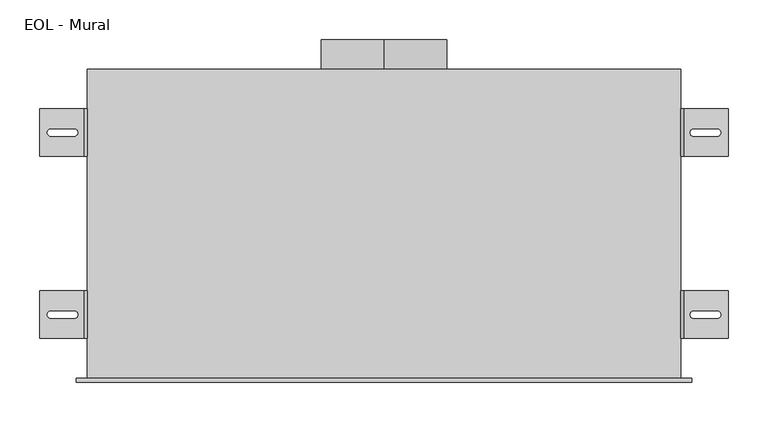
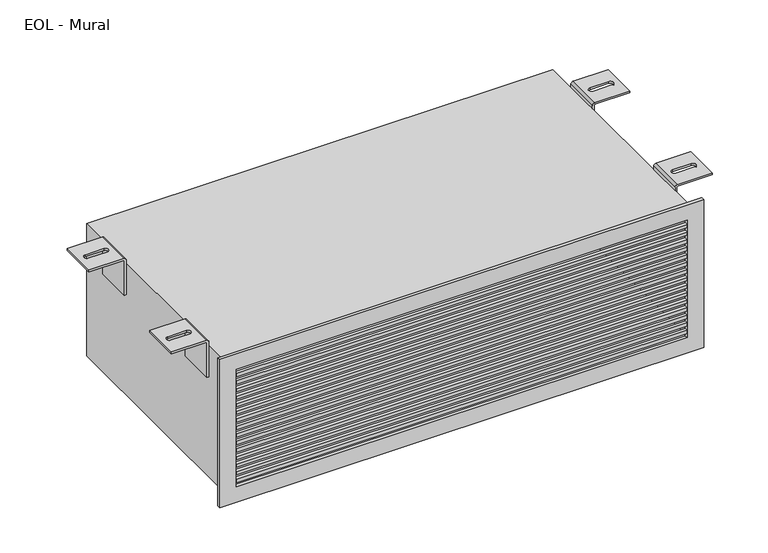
"""IFC4 building model written with IfcOpenShell, lengths in millimetres: air terminal geometry, EOL - Mural : EOL-M160-750x225-2."""

import ifcopenshell
import ifcopenshell.guid

model = None  # the IFC model being written
_history = None  # IfcOwnerHistory: only IFC2X3 demands one
_inside = {}  # id of a spatial element -> (the spatial element, [elements in it])
_under = {}  # id of a project, library or spatial element -> (it, [spatial elements below it])
_declared = {}  # id of a project -> (the project, [libraries it declares])
_typed = {}  # id of a type object -> (the type object, [elements of that type])
_made_of = {}  # id of a material, layer set ... -> (it, [elements and type objects made of it])


def new_model(schema):
    """Start an empty IFC model of exactly this schema.

    Asked for "IFC4X3", IfcOpenShell would pick the latest addendum, in which some entities
    have other attributes; the version numbers below select the first issue.
    IFC2X3 requires an IfcOwnerHistory on every rooted entity: one is made here for all.
    """
    global model, _history
    if schema == "IFC4X3":
        model = ifcopenshell.file(schema_version=(4, 3, 0, 0))
    else:
        model = ifcopenshell.file(schema=schema)
    _inside.clear()
    _under.clear()
    _declared.clear()
    _typed.clear()
    _made_of.clear()
    _history = None
    if model.schema == "IFC2X3":
        org = make("IfcOrganization", Name="unknown")
        user = make(
            "IfcPersonAndOrganization",
            ThePerson=make("IfcPerson", FamilyName="unknown"),
            TheOrganization=org,
        )
        app = make(
            "IfcApplication",
            ApplicationDeveloper=org,
            Version="unknown",
            ApplicationFullName="unknown",
            ApplicationIdentifier="unknown",
        )
        _history = make(
            "IfcOwnerHistory",
            OwningUser=user,
            OwningApplication=app,
            ChangeAction="ADDED",
            CreationDate=0,
        )
    return model


def make(cls, **values):
    """One entity of the class cls with the attributes given. An attribute that is None is left unset."""
    return model.create_entity(
        cls, **{name: value for name, value in values.items() if value is not None}
    )


def rooted(cls, **values):
    """An entity with a GlobalId (a new one), such as an element, a storey or a relation."""
    return make(cls, GlobalId=ifcopenshell.guid.new(), OwnerHistory=_history, **values)


def si_unit(unit_type, name, prefix=None):
    """IfcSIUnit, for example si_unit("LENGTHUNIT", "METRE", prefix="MILLI")."""
    return make("IfcSIUnit", UnitType=unit_type, Prefix=prefix, Name=name)


def assignment(units):
    """IfcUnitAssignment: the units of a project."""
    return None if units is None else make("IfcUnitAssignment", Units=units)


def point(xyz):
    """IfcCartesianPoint."""
    return None if xyz is None else make("IfcCartesianPoint", Coordinates=xyz)


def direction(xyz):
    """IfcDirection."""
    return None if xyz is None else make("IfcDirection", DirectionRatios=xyz)


def frame(location, z_axis=None, x_axis=None):
    """IfcAxis2Placement3D, a coordinate frame: its origin and axes. An axis left out is left unset."""
    return make(
        "IfcAxis2Placement3D",
        Location=point(location),
        Axis=direction(z_axis),
        RefDirection=direction(x_axis),
    )


def frame_2d(location, x_axis=None):
    """IfcAxis2Placement2D, a coordinate frame in the plane: its origin and x axis."""
    return make(
        "IfcAxis2Placement2D", Location=point(location), RefDirection=direction(x_axis)
    )


def origin():
    """The frame at (0, 0, 0) with its axes left unset."""
    return frame((0.0, 0.0, 0.0))


def origin_2d():
    """The frame at (0, 0) in the plane with its x axis left unset."""
    return frame_2d((0.0, 0.0))


def place(relative_to, where):
    """IfcLocalPlacement: puts the frame where relative to a parent placement (None: the world)."""
    return make(
        "IfcLocalPlacement", PlacementRelTo=relative_to, RelativePlacement=where
    )


def context(
    kind, dimensions, precision=None, world=None, true_north=None, identifier=None
):
    """IfcGeometricRepresentationContext, for example the 3D "Model" context."""
    return make(
        "IfcGeometricRepresentationContext",
        ContextIdentifier=identifier,
        ContextType=kind,
        CoordinateSpaceDimension=dimensions,
        Precision=precision,
        WorldCoordinateSystem=world,
        TrueNorth=true_north,
    )


def project(units=None, contexts=None):
    """IfcProject with its units and contexts."""
    return rooted(
        "IfcProject",
        Name="project",
        RepresentationContexts=contexts,
        UnitsInContext=assignment(units),
    )


def spatial(cls, under=None, at=None, **own):
    """A site, building, storey or space (cls), placed at a placement, below another one or the project."""
    s = rooted(cls, ObjectPlacement=at, **own)
    if under is not None:
        _under.setdefault(under.id(), (under, []))[1].append(s)
    return s


def polyline(points):
    """IfcPolyline through the points."""
    return make("IfcPolyline", Points=[point(p) for p in points])


def circle_curve(where, radius):
    """IfcCircle in the frame where."""
    return make("IfcCircle", Position=where, Radius=radius)


def ellipse_curve(where, semi_axis1, semi_axis2):
    """IfcEllipse in the frame where."""
    return make(
        "IfcEllipse", Position=where, SemiAxis1=semi_axis1, SemiAxis2=semi_axis2
    )


def trimmed(basis, trim1, trim2, sense, master):
    """IfcTrimmedCurve: the piece of a basis curve between two trims."""
    return make(
        "IfcTrimmedCurve",
        BasisCurve=basis,
        Trim1=trim1,
        Trim2=trim2,
        SenseAgreement=sense,
        MasterRepresentation=master,
    )


def segment(curve, same_sense, transition):
    """IfcCompositeCurveSegment."""
    return make(
        "IfcCompositeCurveSegment",
        Transition=transition,
        SameSense=same_sense,
        ParentCurve=curve,
    )


def composite_curve(segments, self_intersect=None):
    """IfcCompositeCurve: segments joined end to end."""
    return make("IfcCompositeCurve", Segments=segments, SelfIntersect=self_intersect)


def outline(outer, holes=None, kind="AREA"):
    """IfcArbitraryClosedProfileDef: a profile drawn as a closed curve; with holes, ...WithVoids."""
    if holes is None:
        return make("IfcArbitraryClosedProfileDef", ProfileType=kind, OuterCurve=outer)
    return make(
        "IfcArbitraryProfileDefWithVoids",
        ProfileType=kind,
        OuterCurve=outer,
        InnerCurves=holes,
    )


def extrude(swept, where, along, depth):
    """IfcExtrudedAreaSolid: the profile swept, set in the frame where, extruded along a direction by depth."""
    return make(
        "IfcExtrudedAreaSolid",
        SweptArea=swept,
        Position=where,
        ExtrudedDirection=direction(along),
        Depth=depth,
    )


def shape(context_of_items, identifier, shape_type, items):
    """IfcShapeRepresentation: the items that make up one representation, for example the "Body"."""
    return make(
        "IfcShapeRepresentation",
        ContextOfItems=context_of_items,
        RepresentationIdentifier=identifier,
        RepresentationType=shape_type,
        Items=items,
    )


def source(mapping_origin, context_of_items, identifier, shape_type, items):
    """IfcRepresentationMap: a shape defined once, which mapped items show again and again."""
    return make(
        "IfcRepresentationMap",
        MappingOrigin=mapping_origin,
        MappedRepresentation=shape(context_of_items, identifier, shape_type, items),
    )


def transform(
    local_origin,
    x_axis=None,
    y_axis=None,
    z_axis=None,
    scale=None,
    scale2=None,
    scale3=None,
    uniform=True,
):
    """IfcCartesianTransformationOperator3D, or its non-uniform kind. x_axis, y_axis, z_axis: its Axis1, 2, 3."""
    if uniform:
        return make(
            "IfcCartesianTransformationOperator3D",
            Axis1=direction(x_axis),
            Axis2=direction(y_axis),
            LocalOrigin=point(local_origin),
            Scale=scale,
            Axis3=direction(z_axis),
        )
    return make(
        "IfcCartesianTransformationOperator3DnonUniform",
        Axis1=direction(x_axis),
        Axis2=direction(y_axis),
        LocalOrigin=point(local_origin),
        Scale=scale,
        Axis3=direction(z_axis),
        Scale2=scale2,
        Scale3=scale3,
    )


def mapped(mapping_source, mapping_target):
    """IfcMappedItem: shows the shape of a source again, moved by a transform."""
    return make(
        "IfcMappedItem", MappingSource=mapping_source, MappingTarget=mapping_target
    )


def made_of(thing, what):
    """Note that an element or type object is made of a material, layer set ...; save() writes the relation."""
    if what is not None:
        _made_of.setdefault(what.id(), (what, []))[1].append(thing)
    return thing


def element(
    cls,
    number,
    at=None,
    inside=None,
    cuts=None,
    type_object=None,
    material=None,
    context=None,
    identifier="Body",
    shape_type=None,
    held_by="IfcProductDefinitionShape",
    body=None,
    shapes=None,
    **own,
):
    """One element of the class cls, such as IfcWall. Its Tag is "e" and its number.

    at: its placement. inside: the storey or other place that contains it. cuts: it is an
    opening in that element (IfcRelVoidsElement). A single representation is given by context,
    identifier, shape_type and body (its items); several are given by shapes. held_by: the class
    of the entity that holds the representations. save() writes the other relations.
    """
    e = rooted(cls, Tag="e%d" % number, ObjectPlacement=at, **own)
    if body is not None:
        shapes = [shape(context, identifier, shape_type, body)]
    if shapes is not None:
        e.Representation = make(held_by, Representations=shapes)
    if inside is not None:
        _inside.setdefault(inside.id(), (inside, []))[1].append(e)
    if cuts is not None:
        rooted(
            "IfcRelVoidsElement", RelatingBuildingElement=cuts, RelatedOpeningElement=e
        )
    if type_object is not None:
        _typed.setdefault(type_object.id(), (type_object, []))[1].append(e)
    return made_of(e, material)


def aggregate(whole, parts):
    """IfcRelAggregates: a whole, such as a stair, and the parts it consists of."""
    return rooted("IfcRelAggregates", RelatingObject=whole, RelatedObjects=parts)


def save(model, path):
    """Write the relations noted so far, then the file.

    IfcRelAggregates (storeys below a building ...), IfcRelContainedInSpatialStructure (elements
    in a storey), IfcRelDefinesByType, IfcRelAssociatesMaterial and IfcRelDeclares: one each for
    every whole, place, type object, material and project.
    """
    for whole, parts in _under.values():
        aggregate(whole, parts)
    for where, things in _inside.values():
        rooted(
            "IfcRelContainedInSpatialStructure",
            RelatedElements=things,
            RelatingStructure=where,
        )
    for kind, things in _typed.values():
        rooted("IfcRelDefinesByType", RelatedObjects=things, RelatingType=kind)
    for what, things in _made_of.values():
        rooted("IfcRelAssociatesMaterial", RelatedObjects=things, RelatingMaterial=what)
    for by, libraries in _declared.values():
        rooted("IfcRelDeclares", RelatingContext=by, RelatedDefinitions=libraries)
    model.write(path)


def plane_surface(at):
    """IfcPlane: the flat surface through the origin of the frame at, square to its z axis."""
    return make("IfcPlane", Position=at)


def cylinder_surface(at, radius):
    """IfcCylindricalSurface: all points at the distance radius from the z axis of the frame at."""
    return make("IfcCylindricalSurface", Position=at, Radius=radius)


def revolved_surface(curve, axis_point, axis_direction):
    """IfcSurfaceOfRevolution: the curve turned about the line through axis_point along axis_direction."""
    return make(
        "IfcSurfaceOfRevolution",
        SweptCurve=make("IfcArbitraryOpenProfileDef", ProfileType="CURVE", Curve=curve),
        AxisPosition=make("IfcAxis1Placement", Location=point(axis_point), Axis=direction(axis_direction)),
    )


def extruded_surface(curve, direction_of_extrusion, depth):
    """IfcSurfaceOfLinearExtrusion: the curve pushed along a direction by depth."""
    return make(
        "IfcSurfaceOfLinearExtrusion",
        SweptCurve=make("IfcArbitraryOpenProfileDef", ProfileType="CURVE", Curve=curve),
        ExtrudedDirection=direction(direction_of_extrusion),
        Depth=depth,
    )


def advanced_brep(points, edges, surfaces, faces):
    """IfcAdvancedBrep: a solid bounded by faces that lie on surfaces and meet in shared edges.

    An edge is (start, end): straight between two places in points (the first is 0);
    or (start, end, curve); or (start, end, curve, False) where it runs against its curve.
    A face is (place in surfaces, loops), or (place, loops, False) where it looks against
    its surface's normal. A loop lists edges by number (the first is 1), with a minus sign
    where the edge is run from its end to its start. The first loop is the outer one.
    """
    corners = [point(p) for p in points]
    vertices = [make("IfcVertexPoint", VertexGeometry=c) for c in corners]
    made = []
    for start, end, *more in edges:
        made.append(
            make(
                "IfcEdgeCurve",
                EdgeStart=vertices[start],
                EdgeEnd=vertices[end],
                EdgeGeometry=more[0] if more else make("IfcPolyline", Points=[corners[start], corners[end]]),
                SameSense=more[1] if len(more) > 1 else True,
            )
        )
    hull = []
    for where, loops, *sense in faces:
        bounds = []
        for j, loop in enumerate(loops):
            ring = [make("IfcOrientedEdge", EdgeElement=made[abs(k) - 1], Orientation=k > 0) for k in loop]
            bounds.append(
                make(
                    "IfcFaceOuterBound" if j == 0 else "IfcFaceBound",
                    Bound=make("IfcEdgeLoop", EdgeList=ring),
                    Orientation=True,
                )
            )
        hull.append(make("IfcAdvancedFace", Bounds=bounds, FaceSurface=surfaces[where], SameSense=sense[0] if sense else True))
    return make("IfcAdvancedBrep", Outer=make("IfcClosedShell", CfsFaces=hull))


def eol_mural_28d9379e(model_context):
    return source(origin(), model_context, "Body", "SolidModel", [
        advanced_brep(
        [(379.0013366, 110.0, 121.5), (435.0, 110.0, 121.5), (435.0, 110.0, 118.5), (379.0, 110.0, 118.5), (378.0, 110.0, 117.5), (378.0, 110.0, 58.5), (375.0, 110.0, 58.5), (375.0, 110.0, 117.4986634), (379.0013366, 50.0, 121.5), (375.0, 50.0, 117.4986634), (375.0, 50.0, 58.5), (378.0, 50.0, 58.5), (378.0, 50.0, 117.5), (379.0, 50.0, 118.5), (435.0, 50.0, 118.5), (435.0, 50.0, 121.5), (421.0287952, 75.4804328, 121.5), (391.0287952, 75.4804328, 121.5), (391.0287952, 84.4804328, 121.5), (421.0287952, 84.4804328, 121.5), (391.0287952, 75.4804328, 118.5), (421.0287952, 75.4804328, 118.5), (421.0287952, 84.4804328, 118.5), (391.0287952, 84.4804328, 118.5)],
        [
            (0, 1),
            (1, 2),
            (2, 3),
            (3, 4, circle_curve(frame((379.0, 110.0, 117.5), z_axis=(0.0, -1.0, 0.0), x_axis=(-1.0000000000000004, 0.0, 0.0)), 1.0)),
            (4, 5),
            (5, 6),
            (6, 7),
            (7, 0, circle_curve(frame((379.0013366, 110.0, 117.4986634), z_axis=(0.0, 1.0, 0.0), x_axis=(-1.0000000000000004, 0.0, 0.0)), 4.0013366)),
            (8, 9, circle_curve(frame((379.0013366, 50.0, 117.4986634), z_axis=(0.0, -1.0, 0.0), x_axis=(-1.0000000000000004, 0.0, 0.0)), 4.0013366)),
            (9, 10),
            (10, 11),
            (11, 12),
            (12, 13, circle_curve(frame((379.0, 50.0, 117.5), z_axis=(0.0, 1.0, 0.0), x_axis=(-1.0000000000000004, 0.0, 0.0)), 1.0)),
            (13, 14),
            (14, 15),
            (15, 8),
            (0, 8),
            (15, 1),
            (16, 17),
            (17, 18, circle_curve(frame((391.0287952, 79.9804328, 121.5), z_axis=(0.0, 0.0, -1.0), x_axis=(0.0, -1.0, 0.0)), 4.5)),
            (18, 19),
            (19, 16, circle_curve(frame((421.0287952, 79.9804328, 121.5), z_axis=(0.0, 0.0, -1.0), x_axis=(0.0, -1.0, 0.0)), 4.5)),
            (14, 2),
            (13, 3),
            (20, 21),
            (21, 22, ellipse_curve(frame((421.0287952, 79.9804328, 118.5), z_axis=(0.0, 0.0, 1.0), x_axis=(0.0, -1.0, 0.0)), 4.5, 4.5)),
            (22, 23),
            (23, 20, ellipse_curve(frame((391.0287952, 79.9804328, 118.5), z_axis=(0.0, 0.0, 1.0), x_axis=(0.0, -1.0, 0.0)), 4.5, 4.5)),
            (12, 4),
            (11, 5),
            (10, 6),
            (9, 7),
            (16, 21),
            (20, 17),
            (19, 22),
            (18, 23),
        ],
        [
            plane_surface(frame((435.0, 110.0, 121.5), z_axis=(0.0, 1.0, 0.0), x_axis=(1.0, 0.0, 0.0))),
            plane_surface(frame((435.0, 50.0, 121.5), z_axis=(0.0, -1.0, 0.0), x_axis=(-1.0, 0.0, 0.0))),
            plane_surface(frame((379.0013366, 110.0, 121.5), z_axis=(0.0, 0.0, 1.0), x_axis=(0.0, -1.0, 0.0))),
            plane_surface(frame((435.0, 110.0, 121.5), z_axis=(1.0, 0.0, 0.0), x_axis=(0.0, -1.0, 0.0))),
            plane_surface(frame((435.0, 110.0, 118.5), z_axis=(0.0, 0.0, -1.0), x_axis=(0.0, -1.0, 0.0))),
            revolved_surface(polyline([(378.0, 50.0, 117.5), (378.0, 110.00000000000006, 117.5)]), (379.0, 50.0, 117.5), (0.0, -1.0000000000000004, 0.0)),
            plane_surface(frame((378.0, 110.0, 117.5), z_axis=(1.0, 0.0, 0.0), x_axis=(0.0, -1.0, 0.0))),
            plane_surface(frame((378.0, 110.0, 58.5), z_axis=(0.0, 0.0, -1.0), x_axis=(0.0, -1.0, 0.0))),
            plane_surface(frame((375.0, 110.0, 58.5), z_axis=(-1.0, 0.0, 0.0), x_axis=(0.0, -1.0, 0.0))),
            cylinder_surface(frame((379.0013366, 50.0, 117.4986634), z_axis=(0.0, 1.0000000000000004, 0.0), x_axis=(-1.0000000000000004, 0.0, 0.0)), 4.0013366),
            plane_surface(frame((391.0287952, 75.4804328, 121.5), z_axis=(0.0, 1.0, 0.0), x_axis=(0.0, 0.0, -1.0))),
            extruded_surface(trimmed(ellipse_curve(frame((421.0287952, 79.9804328, 118.5), z_axis=(0.0, 0.0, 1.0), x_axis=(0.0, -1.0, 0.0)), 4.5, 4.5), [point((421.0287952, 75.4804328, 118.5))], [point((421.0287952, 84.4804328, 118.5))], True, "CARTESIAN"), (0.0, 0.0, -3.0), 3.0),
            plane_surface(frame((421.0287952, 84.4804328, 121.5), z_axis=(0.0, -1.0, 0.0), x_axis=(0.0, 0.0, -1.0))),
            extruded_surface(trimmed(ellipse_curve(frame((391.0287952, 79.9804328, 118.5), z_axis=(0.0, 0.0, 1.0), x_axis=(0.0, -1.0, 0.0)), 4.5, 4.5), [point((391.0287952, 84.4804328, 118.5))], [point((391.0287952, 75.4804328, 118.5))], True, "CARTESIAN"), (0.0, 0.0, -3.0), 3.0),
        ],
        [
            (0, [[1, 2, 3, 4, 5, 6, 7, 8]]),
            (1, [[9, 10, 11, 12, 13, 14, 15, 16]]),
            (2, [[-1, 17, -16, 18], [19, 20, 21, 22]]),
            (3, [[-2, -18, -15, 23]]),
            (4, [[-3, -23, -14, 24], [25, 26, 27, 28]]),
            (5, [[-4, -24, -13, 29]]),
            (6, [[-5, -29, -12, 30]]),
            (7, [[-6, -30, -11, 31]]),
            (8, [[-7, -31, -10, 32]]),
            (9, [[-8, -32, -9, -17]]),
            (10, [[33, -25, 34, -19]]),
            (11, [[-33, -22, 35, -26]]),
            (12, [[-35, -21, 36, -27]]),
            (13, [[-34, -28, -36, -20]]),
        ],
    ),
        advanced_brep(
        [(379.0013366, 340.0, 121.5), (435.0, 340.0, 121.5), (435.0, 340.0, 118.5), (379.0, 340.0, 118.5), (378.0, 340.0, 117.5), (378.0, 340.0, 58.5), (375.0, 340.0, 58.5), (375.0, 340.0, 117.4986634), (379.0013366, 280.0, 121.5), (375.0, 280.0, 117.4986634), (375.0, 280.0, 58.5), (378.0, 280.0, 58.5), (378.0, 280.0, 117.5), (379.0, 280.0, 118.5), (435.0, 280.0, 118.5), (435.0, 280.0, 121.5), (421.0287952, 305.4804328, 121.5), (391.0287952, 305.4804328, 121.5), (391.0287952, 314.4804328, 121.5), (421.0287952, 314.4804328, 121.5), (391.0287952, 305.4804328, 118.5), (421.0287952, 305.4804328, 118.5), (421.0287952, 314.4804328, 118.5), (391.0287952, 314.4804328, 118.5)],
        [
            (0, 1),
            (1, 2),
            (2, 3),
            (3, 4, circle_curve(frame((379.0, 340.0, 117.5), z_axis=(0.0, -1.0, 0.0), x_axis=(-1.0, 0.0, 0.0)), 1.0)),
            (4, 5),
            (5, 6),
            (6, 7),
            (7, 0, circle_curve(frame((379.0013366, 340.0, 117.4986634), z_axis=(0.0, 1.0, 0.0), x_axis=(-1.0, 0.0, 0.0)), 4.0013366)),
            (8, 9, circle_curve(frame((379.0013366, 280.0, 117.4986634), z_axis=(0.0, -1.0, 0.0), x_axis=(-1.0, 0.0, 0.0)), 4.0013366)),
            (9, 10),
            (10, 11),
            (11, 12),
            (12, 13, circle_curve(frame((379.0, 280.0, 117.5), z_axis=(0.0, 1.0, 0.0), x_axis=(-1.0, 0.0, 0.0)), 1.0)),
            (13, 14),
            (14, 15),
            (15, 8),
            (0, 8),
            (15, 1),
            (16, 17),
            (17, 18, circle_curve(frame((391.0287952, 309.9804328, 121.5), z_axis=(0.0, 0.0, -1.0), x_axis=(0.0, -1.0, 0.0)), 4.5)),
            (18, 19),
            (19, 16, circle_curve(frame((421.0287952, 309.9804328, 121.5), z_axis=(0.0, 0.0, -1.0), x_axis=(0.0, -1.0, 0.0)), 4.5)),
            (14, 2),
            (13, 3),
            (20, 21),
            (21, 22, ellipse_curve(frame((421.0287952, 309.9804328, 118.5), z_axis=(0.0, 0.0, 1.0), x_axis=(0.0, -1.0, 0.0)), 4.5, 4.5)),
            (22, 23),
            (23, 20, ellipse_curve(frame((391.0287952, 309.9804328, 118.5), z_axis=(0.0, 0.0, 1.0), x_axis=(0.0, -1.0, 0.0)), 4.5, 4.5)),
            (12, 4),
            (11, 5),
            (10, 6),
            (9, 7),
            (16, 21),
            (20, 17),
            (19, 22),
            (18, 23),
        ],
        [
            plane_surface(frame((435.0, 340.0, 121.5), z_axis=(0.0, 1.0, 0.0), x_axis=(1.0, 0.0, 0.0))),
            plane_surface(frame((435.0, 280.0, 121.5), z_axis=(0.0, -1.0, 0.0), x_axis=(-1.0, 0.0, 0.0))),
            plane_surface(frame((379.0013366, 340.0, 121.5), z_axis=(0.0, 0.0, 1.0), x_axis=(0.0, -1.0, 0.0))),
            plane_surface(frame((435.0, 340.0, 121.5), z_axis=(1.0, 0.0, 0.0), x_axis=(0.0, -1.0, 0.0))),
            plane_surface(frame((435.0, 340.0, 118.5), z_axis=(0.0, 0.0, -1.0), x_axis=(0.0, -1.0, 0.0))),
            revolved_surface(polyline([(378.0, 280.0, 117.5), (378.0, 340.0, 117.5)]), (379.0, 280.0, 117.5), (0.0, -1.0, 0.0)),
            plane_surface(frame((378.0, 340.0, 117.5), z_axis=(1.0, 0.0, 0.0), x_axis=(0.0, -1.0, 0.0))),
            plane_surface(frame((378.0, 340.0, 58.5), z_axis=(0.0, 0.0, -1.0), x_axis=(0.0, -1.0, 0.0))),
            plane_surface(frame((375.0, 340.0, 58.5), z_axis=(-1.0, 0.0, 0.0), x_axis=(0.0, -1.0, 0.0))),
            cylinder_surface(frame((379.0013366, 280.0, 117.4986634), z_axis=(0.0, 1.0, 0.0), x_axis=(-1.0, 0.0, 0.0)), 4.0013366),
            plane_surface(frame((391.0287952, 305.4804328, 121.5), z_axis=(0.0, 1.0, 0.0), x_axis=(0.0, 0.0, -1.0))),
            extruded_surface(trimmed(ellipse_curve(frame((421.0287952, 309.9804328, 118.5), z_axis=(0.0, 0.0, 1.0), x_axis=(0.0, -1.0, 0.0)), 4.5, 4.5), [point((421.0287952, 305.4804328, 118.5))], [point((421.0287952, 314.4804328, 118.5))], True, "CARTESIAN"), (0.0, 0.0, -3.0), 3.0),
            plane_surface(frame((421.0287952, 314.4804328, 121.5), z_axis=(0.0, -1.0, 0.0), x_axis=(0.0, 0.0, -1.0))),
            extruded_surface(trimmed(ellipse_curve(frame((391.0287952, 309.9804328, 118.5), z_axis=(0.0, 0.0, 1.0), x_axis=(0.0, -1.0, 0.0)), 4.5, 4.5), [point((391.0287952, 314.4804328, 118.5))], [point((391.0287952, 305.4804328, 118.5))], True, "CARTESIAN"), (0.0, 0.0, -3.0), 3.0),
        ],
        [
            (0, [[1, 2, 3, 4, 5, 6, 7, 8]]),
            (1, [[9, 10, 11, 12, 13, 14, 15, 16]]),
            (2, [[-1, 17, -16, 18], [19, 20, 21, 22]]),
            (3, [[-2, -18, -15, 23]]),
            (4, [[-3, -23, -14, 24], [25, 26, 27, 28]]),
            (5, [[-4, -24, -13, 29]]),
            (6, [[-5, -29, -12, 30]]),
            (7, [[-6, -30, -11, 31]]),
            (8, [[-7, -31, -10, 32]]),
            (9, [[-8, -32, -9, -17]]),
            (10, [[33, -25, 34, -19]]),
            (11, [[-33, -22, 35, -26]]),
            (12, [[-35, -21, 36, -27]]),
            (13, [[-34, -28, -36, -20]]),
        ],
    ),
        advanced_brep(
        [(-379.0013366, 50.0, 121.5), (-435.0, 50.0, 121.5), (-435.0, 50.0, 118.5), (-379.0, 50.0, 118.5), (-378.0, 50.0, 117.5), (-378.0, 50.0, 58.5), (-375.0, 50.0, 58.5), (-375.0, 50.0, 117.4986634), (-379.0013366, 110.0, 121.5), (-375.0, 110.0, 117.4986634), (-375.0, 110.0, 58.5), (-378.0, 110.0, 58.5), (-378.0, 110.0, 117.5), (-379.0, 110.0, 118.5), (-435.0, 110.0, 118.5), (-435.0, 110.0, 121.5), (-421.0287952, 84.5195672, 121.5), (-391.0287952, 84.5195672, 121.5), (-391.0287952, 75.5195672, 121.5), (-421.0287952, 75.5195672, 121.5), (-391.0287952, 84.5195672, 118.5), (-421.0287952, 84.5195672, 118.5), (-421.0287952, 75.5195672, 118.5), (-391.0287952, 75.5195672, 118.5)],
        [
            (0, 1),
            (1, 2),
            (2, 3),
            (3, 4, circle_curve(frame((-379.0, 50.0, 117.5), z_axis=(0.0, 1.0, 0.0), x_axis=(1.0, 0.0, 0.0)), 1.0)),
            (4, 5),
            (5, 6),
            (6, 7),
            (7, 0, circle_curve(frame((-379.0013366, 50.0, 117.4986634), z_axis=(0.0, -1.0, 0.0), x_axis=(1.0, 0.0, 0.0)), 4.0013366)),
            (8, 9, circle_curve(frame((-379.0013366, 110.0, 117.4986634), z_axis=(0.0, 1.0, 0.0), x_axis=(1.0, 0.0, 0.0)), 4.0013366)),
            (9, 10),
            (10, 11),
            (11, 12),
            (12, 13, circle_curve(frame((-379.0, 110.0, 117.5), z_axis=(0.0, -1.0, 0.0), x_axis=(1.0, 0.0, 0.0)), 1.0)),
            (13, 14),
            (14, 15),
            (15, 8),
            (0, 8),
            (15, 1),
            (16, 17),
            (17, 18, circle_curve(frame((-391.0287952, 80.0195672, 121.5), z_axis=(0.0, 0.0, -1.0), x_axis=(0.0, 1.0, 0.0)), 4.5)),
            (18, 19),
            (19, 16, circle_curve(frame((-421.0287952, 80.0195672, 121.5), z_axis=(0.0, 0.0, -1.0), x_axis=(0.0, 1.0, 0.0)), 4.5)),
            (14, 2),
            (13, 3),
            (20, 21),
            (21, 22, ellipse_curve(frame((-421.0287952, 80.0195672, 118.5), z_axis=(0.0, 0.0, 1.0), x_axis=(0.0, 1.0, 0.0)), 4.5, 4.5)),
            (22, 23),
            (23, 20, ellipse_curve(frame((-391.0287952, 80.0195672, 118.5), z_axis=(0.0, 0.0, 1.0), x_axis=(0.0, 1.0, 0.0)), 4.5, 4.5)),
            (12, 4),
            (11, 5),
            (10, 6),
            (9, 7),
            (16, 21),
            (20, 17),
            (19, 22),
            (18, 23),
        ],
        [
            plane_surface(frame((-435.0, 50.0, 121.5), z_axis=(0.0, -1.0, 0.0), x_axis=(-1.0, 0.0, 0.0))),
            plane_surface(frame((-435.0, 110.0, 121.5), z_axis=(0.0, 1.0, 0.0), x_axis=(1.0, 0.0, 0.0))),
            plane_surface(frame((-379.0013366, 50.0, 121.5), z_axis=(0.0, 0.0, 1.0), x_axis=(0.0, 1.0, 0.0))),
            plane_surface(frame((-435.0, 50.0, 121.5), z_axis=(-1.0, 0.0, 0.0), x_axis=(0.0, 1.0, 0.0))),
            plane_surface(frame((-435.0, 50.0, 118.5), z_axis=(0.0, 0.0, -1.0), x_axis=(0.0, 1.0, 0.0))),
            revolved_surface(polyline([(-378.0, 110.0, 117.5), (-378.0, 50.0, 117.5)]), (-379.0, 110.0, 117.5), (0.0, 1.0, 0.0)),
            plane_surface(frame((-378.0, 50.0, 117.5), z_axis=(-1.0, 0.0, 0.0), x_axis=(0.0, 1.0, 0.0))),
            plane_surface(frame((-378.0, 50.0, 58.5), z_axis=(0.0, 0.0, -1.0), x_axis=(0.0, 1.0, 0.0))),
            plane_surface(frame((-375.0, 50.0, 58.5), z_axis=(1.0, 0.0, 0.0), x_axis=(0.0, 1.0, 0.0))),
            cylinder_surface(frame((-379.0013366, 110.0, 117.4986634), z_axis=(0.0, -1.0, 0.0), x_axis=(1.0, 0.0, 0.0)), 4.0013366),
            plane_surface(frame((-391.0287952, 84.5195672, 121.5), z_axis=(0.0, -1.0, 0.0), x_axis=(0.0, 0.0, -1.0))),
            extruded_surface(trimmed(ellipse_curve(frame((-421.0287952, 80.0195672, 118.5), z_axis=(0.0, 0.0, 1.0), x_axis=(0.0, 1.0, 0.0)), 4.5, 4.5), [point((-421.0287952, 84.5195672, 118.5))], [point((-421.0287952, 75.5195672, 118.5))], True, "CARTESIAN"), (0.0, 0.0, -3.0), 3.0),
            plane_surface(frame((-421.0287952, 75.5195672, 121.5), z_axis=(0.0, 1.0, 0.0), x_axis=(0.0, 0.0, -1.0))),
            extruded_surface(trimmed(ellipse_curve(frame((-391.0287952, 80.0195672, 118.5), z_axis=(0.0, 0.0, 1.0), x_axis=(0.0, 1.0, 0.0)), 4.5, 4.5), [point((-391.0287952, 75.5195672, 118.5))], [point((-391.0287952, 84.5195672, 118.5))], True, "CARTESIAN"), (0.0, 0.0, -3.0), 3.0),
        ],
        [
            (0, [[1, 2, 3, 4, 5, 6, 7, 8]]),
            (1, [[9, 10, 11, 12, 13, 14, 15, 16]]),
            (2, [[-1, 17, -16, 18], [19, 20, 21, 22]]),
            (3, [[-2, -18, -15, 23]]),
            (4, [[-3, -23, -14, 24], [25, 26, 27, 28]]),
            (5, [[-4, -24, -13, 29]]),
            (6, [[-5, -29, -12, 30]]),
            (7, [[-6, -30, -11, 31]]),
            (8, [[-7, -31, -10, 32]]),
            (9, [[-8, -32, -9, -17]]),
            (10, [[33, -25, 34, -19]]),
            (11, [[-33, -22, 35, -26]]),
            (12, [[-35, -21, 36, -27]]),
            (13, [[-34, -28, -36, -20]]),
        ],
    ),
        advanced_brep(
        [(-379.0013366, 280.0, 121.5), (-435.0, 280.0, 121.5), (-435.0, 280.0, 118.5), (-379.0, 280.0, 118.5), (-378.0, 280.0, 117.5), (-378.0, 280.0, 58.5), (-375.0, 280.0, 58.5), (-375.0, 280.0, 117.4986634), (-379.0013366, 340.0, 121.5), (-375.0, 340.0, 117.4986634), (-375.0, 340.0, 58.5), (-378.0, 340.0, 58.5), (-378.0, 340.0, 117.5), (-379.0, 340.0, 118.5), (-435.0, 340.0, 118.5), (-435.0, 340.0, 121.5), (-421.0287952, 314.5195672, 121.5), (-391.0287952, 314.5195672, 121.5), (-391.0287952, 305.5195672, 121.5), (-421.0287952, 305.5195672, 121.5), (-391.0287952, 314.5195672, 118.5), (-421.0287952, 314.5195672, 118.5), (-421.0287952, 305.5195672, 118.5), (-391.0287952, 305.5195672, 118.5)],
        [
            (0, 1),
            (1, 2),
            (2, 3),
            (3, 4, circle_curve(frame((-379.0, 280.0, 117.5), z_axis=(0.0, 1.0, 0.0), x_axis=(1.0, 0.0, 0.0)), 1.0)),
            (4, 5),
            (5, 6),
            (6, 7),
            (7, 0, circle_curve(frame((-379.0013366, 280.0, 117.4986634), z_axis=(0.0, -1.0, 0.0), x_axis=(1.0, 0.0, 0.0)), 4.0013366)),
            (8, 9, circle_curve(frame((-379.0013366, 340.0, 117.4986634), z_axis=(0.0, 1.0, 0.0), x_axis=(1.0, 0.0, 0.0)), 4.0013366)),
            (9, 10),
            (10, 11),
            (11, 12),
            (12, 13, circle_curve(frame((-379.0, 340.0, 117.5), z_axis=(0.0, -1.0, 0.0), x_axis=(1.0, 0.0, 0.0)), 1.0)),
            (13, 14),
            (14, 15),
            (15, 8),
            (0, 8),
            (15, 1),
            (16, 17),
            (17, 18, circle_curve(frame((-391.0287952, 310.0195672, 121.5), z_axis=(0.0, 0.0, -1.0), x_axis=(0.0, 1.0, 0.0)), 4.5)),
            (18, 19),
            (19, 16, circle_curve(frame((-421.0287952, 310.0195672, 121.5), z_axis=(0.0, 0.0, -1.0), x_axis=(0.0, 1.0, 0.0)), 4.5)),
            (14, 2),
            (13, 3),
            (20, 21),
            (21, 22, ellipse_curve(frame((-421.0287952, 310.0195672, 118.5), z_axis=(0.0, 0.0, 1.0), x_axis=(0.0, 1.0, 0.0)), 4.5, 4.5)),
            (22, 23),
            (23, 20, ellipse_curve(frame((-391.0287952, 310.0195672, 118.5), z_axis=(0.0, 0.0, 1.0), x_axis=(0.0, 1.0, 0.0)), 4.5, 4.5)),
            (12, 4),
            (11, 5),
            (10, 6),
            (9, 7),
            (16, 21),
            (20, 17),
            (19, 22),
            (18, 23),
        ],
        [
            plane_surface(frame((-435.0, 280.0, 121.5), z_axis=(0.0, -1.0, 0.0), x_axis=(-1.0, 0.0, 0.0))),
            plane_surface(frame((-435.0, 340.0, 121.5), z_axis=(0.0, 1.0, 0.0), x_axis=(1.0, 0.0, 0.0))),
            plane_surface(frame((-379.0013366, 280.0, 121.5), z_axis=(0.0, 0.0, 1.0), x_axis=(0.0, 1.0, 0.0))),
            plane_surface(frame((-435.0, 280.0, 121.5), z_axis=(-1.0, 0.0, 0.0), x_axis=(0.0, 1.0, 0.0))),
            plane_surface(frame((-435.0, 280.0, 118.5), z_axis=(0.0, 0.0, -1.0), x_axis=(0.0, 1.0, 0.0))),
            revolved_surface(polyline([(-378.0, 340.0, 117.5), (-378.0, 280.0, 117.5)]), (-379.0, 340.0, 117.5), (0.0, 1.0, 0.0)),
            plane_surface(frame((-378.0, 280.0, 117.5), z_axis=(-1.0, 0.0, 0.0), x_axis=(0.0, 1.0, 0.0))),
            plane_surface(frame((-378.0, 280.0, 58.5), z_axis=(0.0, 0.0, -1.0), x_axis=(0.0, 1.0, 0.0))),
            plane_surface(frame((-375.0, 280.0, 58.5), z_axis=(1.0, 0.0, 0.0), x_axis=(0.0, 1.0, 0.0))),
            cylinder_surface(frame((-379.0013366, 340.0, 117.4986634), z_axis=(0.0, -1.0, 0.0), x_axis=(1.0, 0.0, 0.0)), 4.0013366),
            plane_surface(frame((-391.0287952, 314.5195672, 121.5), z_axis=(0.0, -1.0, 0.0), x_axis=(0.0, 0.0, -1.0))),
            extruded_surface(trimmed(ellipse_curve(frame((-421.0287952, 310.0195672, 118.5), z_axis=(0.0, 0.0, 1.0), x_axis=(0.0, 1.0, 0.0)), 4.5, 4.5), [point((-421.0287952, 314.5195672, 118.5))], [point((-421.0287952, 305.5195672, 118.5))], True, "CARTESIAN"), (0.0, 0.0, -3.0), 3.0),
            plane_surface(frame((-421.0287952, 305.5195672, 121.5), z_axis=(0.0, 1.0, 0.0), x_axis=(0.0, 0.0, -1.0))),
            extruded_surface(trimmed(ellipse_curve(frame((-391.0287952, 310.0195672, 118.5), z_axis=(0.0, 0.0, 1.0), x_axis=(0.0, 1.0, 0.0)), 4.5, 4.5), [point((-391.0287952, 305.5195672, 118.5))], [point((-391.0287952, 314.5195672, 118.5))], True, "CARTESIAN"), (0.0, 0.0, -3.0), 3.0),
        ],
        [
            (0, [[1, 2, 3, 4, 5, 6, 7, 8]]),
            (1, [[9, 10, 11, 12, 13, 14, 15, 16]]),
            (2, [[-1, 17, -16, 18], [19, 20, 21, 22]]),
            (3, [[-2, -18, -15, 23]]),
            (4, [[-3, -23, -14, 24], [25, 26, 27, 28]]),
            (5, [[-4, -24, -13, 29]]),
            (6, [[-5, -29, -12, 30]]),
            (7, [[-6, -30, -11, 31]]),
            (8, [[-7, -31, -10, 32]]),
            (9, [[-8, -32, -9, -17]]),
            (10, [[33, -25, 34, -19]]),
            (11, [[-33, -22, 35, -26]]),
            (12, [[-35, -21, 36, -27]]),
            (13, [[-34, -28, -36, -20]]),
        ],
    ),
        extrude(outline(composite_curve([segment(trimmed(circle_curve(origin_2d(), 80.0), [point((-80.0, 0.0))], [point((80.0, 0.0))], False, "CARTESIAN"), True, "CONTINUOUS"), segment(trimmed(circle_curve(origin_2d(), 80.0), [point((80.0, 0.0))], [point((-80.0, 0.0))], False, "CARTESIAN"), True, "CONTINUOUS")], self_intersect=False), holes=[composite_curve([segment(trimmed(circle_curve(origin_2d(), 79.0), [point((0.0, 79.0))], [point((0.0, -79.0))], True, "CARTESIAN"), True, "CONTINUOUS"), segment(trimmed(circle_curve(origin_2d(), 79.0), [point((0.0, -79.0))], [point((0.0, 79.0))], True, "CARTESIAN"), True, "CONTINUOUS")], self_intersect=False)]), frame((0.0, 390.0, 0.0), z_axis=(0.0, 1.0, 0.0), x_axis=(0.0, 0.0, 1.0)), (0.0, 0.0, 1.0), 37.5),
        extrude(outline(polyline([(362.5, 0.0), (362.5, -5.0), (-362.5, -5.0), (-362.5, 0.0), (362.5, 0.0)])), frame((0.0, 0.0, 87.15), z_axis=(0.0, 0.0, 1.0), x_axis=(1.0, 0.0, 0.0)), (0.0, 0.0, 1.0), 5.6),
        extrude(outline(polyline([(362.5, 0.0), (362.5, -5.0), (-362.5, -5.0), (-362.5, 0.0), (362.5, 0.0)])), frame((0.0, 0.0, 74.3), z_axis=(0.0, 0.0, 1.0), x_axis=(1.0, 0.0, 0.0)), (0.0, 0.0, 1.0), 5.6),
        extrude(outline(polyline([(362.5, 0.0), (362.5, -5.0), (-362.5, -5.0), (-362.5, 0.0), (362.5, 0.0)])), frame((0.0, 0.0, 61.45), z_axis=(0.0, 0.0, 1.0), x_axis=(1.0, 0.0, 0.0)), (0.0, 0.0, 1.0), 5.6),
        extrude(outline(polyline([(362.5, 0.0), (362.5, -5.0), (-362.5, -5.0), (-362.5, 0.0), (362.5, 0.0)])), frame((0.0, 0.0, 48.6), z_axis=(0.0, 0.0, 1.0), x_axis=(1.0, 0.0, 0.0)), (0.0, 0.0, 1.0), 5.6),
        extrude(outline(polyline([(362.5, 0.0), (362.5, -5.0), (-362.5, -5.0), (-362.5, 0.0), (362.5, 0.0)])), frame((0.0, 0.0, 35.75), z_axis=(0.0, 0.0, 1.0), x_axis=(1.0, 0.0, 0.0)), (0.0, 0.0, 1.0), 5.6),
        extrude(outline(polyline([(362.5, 0.0), (362.5, -5.0), (-362.5, -5.0), (-362.5, 0.0), (362.5, 0.0)])), frame((0.0, 0.0, 22.9), z_axis=(0.0, 0.0, 1.0), x_axis=(1.0, 0.0, 0.0)), (0.0, 0.0, 1.0), 5.6),
        extrude(outline(polyline([(362.5, 0.0), (362.5, -5.0), (-362.5, -5.0), (-362.5, 0.0), (362.5, 0.0)])), frame((0.0, 0.0, 10.05), z_axis=(0.0, 0.0, 1.0), x_axis=(1.0, 0.0, 0.0)), (0.0, 0.0, 1.0), 5.6),
        extrude(outline(polyline([(362.5, 0.0), (362.5, -5.0), (-362.5, -5.0), (-362.5, 0.0), (362.5, 0.0)])), frame((0.0, 0.0, -2.8), z_axis=(0.0, 0.0, 1.0), x_axis=(1.0, 0.0, 0.0)), (0.0, 0.0, 1.0), 5.6),
        extrude(outline(polyline([(362.5, 0.0), (362.5, -5.0), (-362.5, -5.0), (-362.5, 0.0), (362.5, 0.0)])), frame((0.0, 0.0, -15.65), z_axis=(0.0, 0.0, 1.0), x_axis=(1.0, 0.0, 0.0)), (0.0, 0.0, 1.0), 5.6),
        extrude(outline(polyline([(362.5, 0.0), (362.5, -5.0), (-362.5, -5.0), (-362.5, 0.0), (362.5, 0.0)])), frame((0.0, 0.0, -28.5), z_axis=(0.0, 0.0, 1.0), x_axis=(1.0, 0.0, 0.0)), (0.0, 0.0, 1.0), 5.6),
        extrude(outline(polyline([(362.5, 0.0), (362.5, -5.0), (-362.5, -5.0), (-362.5, 0.0), (362.5, 0.0)])), frame((0.0, 0.0, -41.35), z_axis=(0.0, 0.0, 1.0), x_axis=(1.0, 0.0, 0.0)), (0.0, 0.0, 1.0), 5.6),
        extrude(outline(polyline([(362.5, 0.0), (362.5, -5.0), (-362.5, -5.0), (-362.5, 0.0), (362.5, 0.0)])), frame((0.0, 0.0, -54.2), z_axis=(0.0, 0.0, 1.0), x_axis=(1.0, 0.0, 0.0)), (0.0, 0.0, 1.0), 5.6),
        extrude(outline(polyline([(362.5, 0.0), (362.5, -5.0), (-362.5, -5.0), (-362.5, 0.0), (362.5, 0.0)])), frame((0.0, 0.0, -67.05), z_axis=(0.0, 0.0, 1.0), x_axis=(1.0, 0.0, 0.0)), (0.0, 0.0, 1.0), 5.6),
        extrude(outline(polyline([(362.5, 0.0), (362.5, -5.0), (-362.5, -5.0), (-362.5, 0.0), (362.5, 0.0)])), frame((0.0, 0.0, -79.9), z_axis=(0.0, 0.0, 1.0), x_axis=(1.0, 0.0, 0.0)), (0.0, 0.0, 1.0), 5.6),
        extrude(outline(polyline([(362.5, 0.0), (362.5, -5.0), (-362.5, -5.0), (-362.5, 0.0), (362.5, 0.0)])), frame((0.0, 0.0, -92.75), z_axis=(0.0, 0.0, 1.0), x_axis=(1.0, 0.0, 0.0)), (0.0, 0.0, 1.0), 5.6),
        extrude(outline(polyline([(126.0, 389.0), (126.0, -389.0), (-126.0, -389.0), (-126.0, 389.0), (126.0, 389.0)]), holes=[polyline([(100.0, 362.5), (-100.0, 362.5), (-100.0, -362.5), (100.0, -362.5), (100.0, 362.5)])]), frame((0.0, -5.0, 0.0), z_axis=(0.0, 1.0, 0.0), x_axis=(0.0, 0.0, 1.0)), (0.0, 0.0, 1.0), 5.0),
        advanced_brep(
        [(375.0, 390.0, 112.5), (-375.0, 390.0, 112.5), (-375.0, 0.0, 112.5), (375.0, 0.0, 112.5), (375.0, 390.0, -112.5), (375.0, 0.0, -112.5), (-375.0, 0.0, -112.5), (-375.0, 390.0, -112.5), (-79.0, 390.0, 0.0), (79.0, 390.0, 0.0), (-370.0, 0.0, 107.5), (370.0, 0.0, 107.5), (370.0, 0.0, -107.5), (-370.0, 0.0, -107.5), (370.0, 385.0, 107.5), (-370.0, 385.0, 107.5), (370.0, 385.0, -107.5), (-370.0, 385.0, -107.5), (79.0, 385.0, 0.0), (-79.0, 385.0, 0.0)],
        [
            (0, 1),
            (1, 2),
            (2, 3),
            (3, 0),
            (4, 5),
            (5, 6),
            (6, 7),
            (7, 4),
            (0, 4),
            (7, 1),
            (8, 9, circle_curve(frame((0.0, 390.0, 0.0), z_axis=(0.0, -1.0, 0.0), x_axis=(1.0, 0.0, 0.0)), 79.0)),
            (9, 8, circle_curve(frame((0.0, 390.0, 0.0), z_axis=(0.0, -1.0, 0.0), x_axis=(1.0, 0.0, 0.0)), 79.0)),
            (6, 2),
            (5, 3),
            (10, 11),
            (11, 12),
            (12, 13),
            (13, 10),
            (14, 11),
            (10, 15),
            (15, 14),
            (16, 17),
            (17, 13),
            (12, 16),
            (15, 17),
            (16, 14),
            (18, 19, circle_curve(frame((0.0, 385.0, 0.0), z_axis=(0.0, 1.0, 0.0), x_axis=(1.0, 0.0, 0.0)), 79.0)),
            (19, 18, circle_curve(frame((0.0, 385.0, 0.0), z_axis=(0.0, 1.0, 0.0), x_axis=(1.0, 0.0, 0.0)), 79.0)),
            (8, 19),
            (18, 9),
        ],
        [
            plane_surface(frame((-375.0, 390.0, 112.5), z_axis=(0.0, 0.0, 1.0), x_axis=(-1.0, 0.0, 0.0))),
            plane_surface(frame((-375.0, 390.0, -112.5), z_axis=(0.0, 0.0, -1.0), x_axis=(1.0, 0.0, 0.0))),
            plane_surface(frame((375.0, 390.0, 112.5), z_axis=(0.0, 1.0, 0.0), x_axis=(0.0, 0.0, -1.0))),
            plane_surface(frame((-375.0, 390.0, 112.5), z_axis=(-1.0, 0.0, 0.0), x_axis=(0.0, 0.0, -1.0))),
            plane_surface(frame((-375.0, 0.0, 112.5), z_axis=(0.0, -1.0, 0.0), x_axis=(0.0, 0.0, -1.0))),
            plane_surface(frame((375.0, 0.0, 112.5), z_axis=(1.0, 0.0, 0.0), x_axis=(0.0, 0.0, -1.0))),
            plane_surface(frame((-370.0, 385.0, 107.5), z_axis=(0.0, 0.0, -1.0), x_axis=(-1.0, 0.0, 0.0))),
            plane_surface(frame((-370.0, 385.0, -107.5), z_axis=(0.0, 0.0, 1.0), x_axis=(1.0, 0.0, 0.0))),
            plane_surface(frame((370.0, 385.0, 107.5), z_axis=(0.0, -1.0, 0.0), x_axis=(0.0, 0.0, -1.0))),
            plane_surface(frame((-370.0, 385.0, 107.5), z_axis=(1.0, 0.0, 0.0), x_axis=(0.0, 0.0, -1.0))),
            plane_surface(frame((370.0, 0.0, 107.5), z_axis=(-1.0, 0.0, 0.0), x_axis=(0.0, 0.0, -1.0))),
            revolved_surface(polyline([(79.0, 385.0, 0.0), (79.0, 390.0, 0.0)]), (0.0, 427.5, 0.0), (0.0, -1.0, 0.0)),
        ],
        [
            (0, [[1, 2, 3, 4]]),
            (1, [[5, 6, 7, 8]]),
            (2, [[-1, 9, -8, 10], [11, 12]]),
            (3, [[-2, -10, -7, 13]]),
            (4, [[-3, -13, -6, 14], [15, 16, 17, 18]]),
            (5, [[-4, -14, -5, -9]]),
            (6, [[19, -15, 20, 21]]),
            (7, [[22, 23, -17, 24]]),
            (8, [[-21, 25, -22, 26], [27, 28]]),
            (9, [[-20, -18, -23, -25]]),
            (10, [[-19, -26, -24, -16]]),
            (11, [[29, -27, 30, -11]]),
            (11, [[-29, -12, -30, -28]]),
        ],
    ),
    ])


if __name__ == "__main__":
    model = new_model("IFC4")
    model_context = context("Model", 3, world=origin())
    ifc_project = project(units=[si_unit("LENGTHUNIT", "METRE", prefix="MILLI")], contexts=[model_context])
    site = spatial("IfcSite", under=ifc_project)
    building = spatial("IfcBuilding", under=site)
    placement = place(None, origin())
    eol_mural_shape = eol_mural_28d9379e(model_context)
    element("IfcAirTerminal", 1, ObjectType="EOL - Mural : EOL-M160-750x225-2", at=placement, inside=building, context=model_context, shape_type="MappedRepresentation", body=[
        mapped(eol_mural_shape, transform((0.0, 0.0, 0.0), x_axis=(1.0, 0.0, 0.0), y_axis=(0.0, 1.0, 0.0), z_axis=(0.0, 0.0, 1.0))),
    ])
    save(model, "model.ifc")
